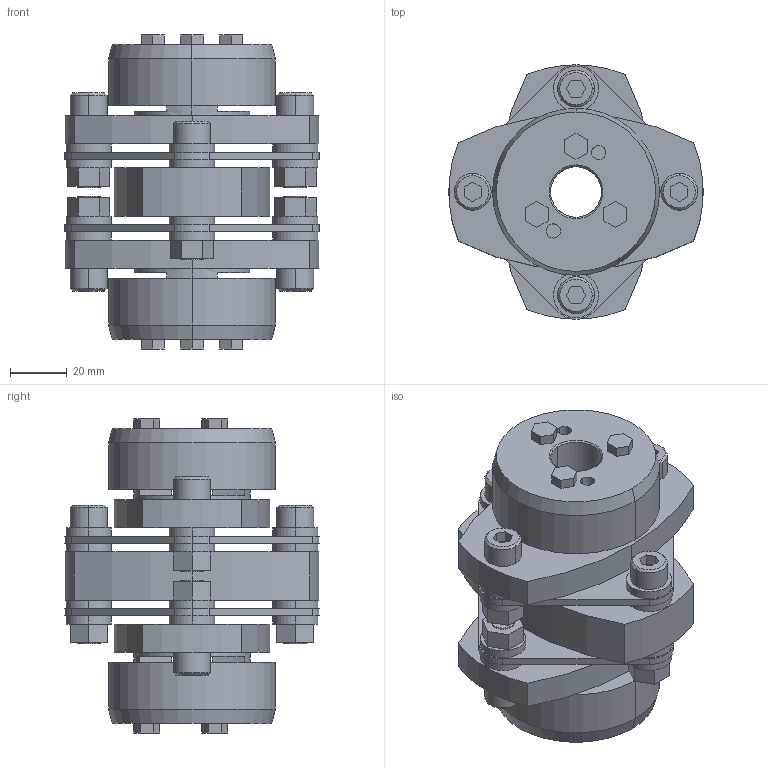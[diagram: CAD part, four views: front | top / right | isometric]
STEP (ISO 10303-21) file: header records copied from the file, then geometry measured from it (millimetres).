
FILE_DESCRIPTION((''),'2;1');
FILE_NAME('LCD-90T7-18×18.stp','2015-11-01T19:15:08',(''),(''),'AutoCAD STEP 2000i','AutoCAD 2000i',', , ');
FILE_SCHEMA(('CONFIG_CONTROL_DESIGN'));
Length unit declared in the file: millimetre
Products named in the file (5): LCD-90T7-19×19; 忣兜1; LC90T7-T019-1; LC90T7-T019; LCD90-ITA
Assembly tree (4 placements, depth 2):
  LCD-90T7-19×19
    忣兜1
    LC90T7-T019-1
    LC90T7-T019
    LCD90-ITA
Bounding box: 90 x 89.94 x 111 mm (x, y, z)
Volume: 280920.1 mm3; surface area: 73913.4 mm2
Topology: 1 solids, 1 shells, 320 faces, 780 edges, 512 vertices
Faces by surface type: plane 176, cylinder 120, cone 24
Entity records: 9635 total; most frequent: DIRECTION 1710, CARTESIAN_POINT 1617, ORIENTED_EDGE 1560, EDGE_CURVE 780, AXIS2_PLACEMENT_3D 605, VERTEX_POINT 512, VECTOR 500, LINE 500
